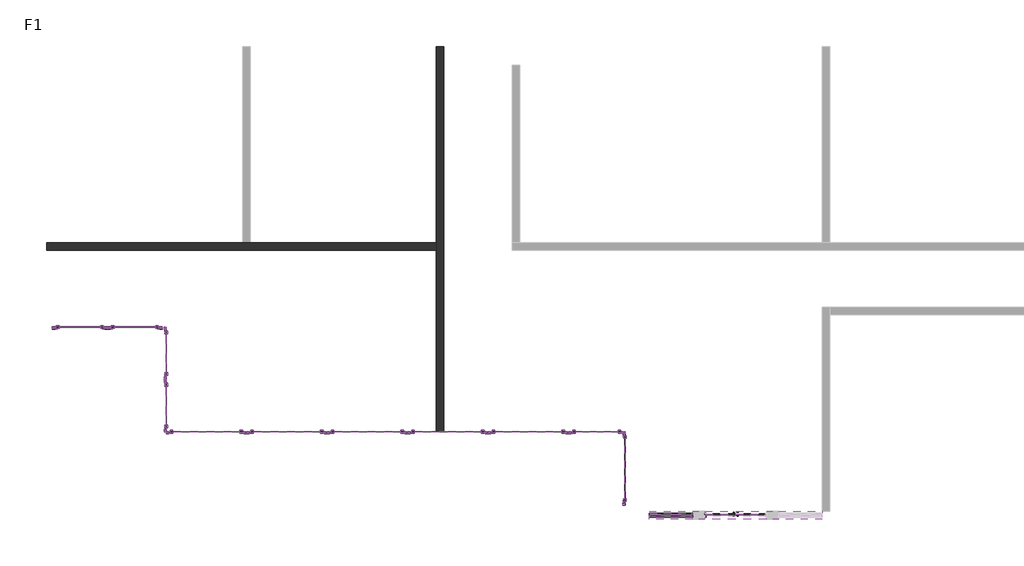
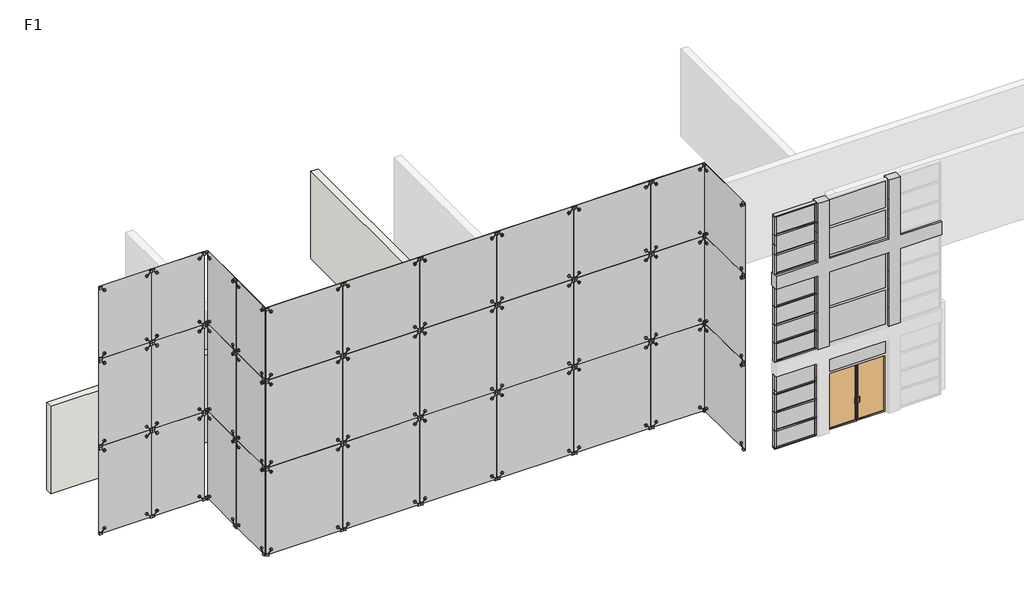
# One storey, part 1 of 2: 53 members, 50 plates, 2 walls, 1 door.
"""IFC4 building model written with IfcOpenShell, lengths in millimetres."""

from ifc_helpers import new_model, si_unit, frame, origin, place, context, project, spatial, polyline, outline, extrude, faceted_brep, transform, mapped, element, save
from components import door_a4a17696, member_50x150mm_c6049076, member_50x150mm_55273b40, member_50x150mm_84253eda, member_50x150mm_532eda0d, member_50x150mm_457f9466, member_50x150mm_6270d9f9, member_50x150mm_9e0f1e24, member_50x150mm_0d3281e4, member_50x150mm_e11a3e7b, member_50x150mm_205d2b36, member_50x150mm_4883e7f1, member_50x150mm_5dc04e1f, member_50x150mm_b8963a12, member_50x150mm_491df31a, member_50x150mm_89bf1671, member_50x150mm_7171523c, member_50x150mm_e5f2d676, member_50x150mm_b8dbbb25, plate_2de22443, plate_c6d4b723, plate_8cc356e0, plate_ce9352c0, plate_63dfc3b5, plate_96117844, plate_a1f4ba17, plate_625a1d1a, plate_6a3ab0c2, plate_77a94082, plate_71bd4e08, plate_7cde3f8c, plate_973c4cc4, plate_be698191, plate_8eec5e89, plate_8c709d47, plate_6d8c1f3b, plate_31661a44, plate_4372ea3f, plate_f9a451e8, plate_4a5322c5, plate_2b92fd1c

model = new_model("IFC4")

# Units and contexts
model_context = context("Model", 3, world=origin())
ifc_project = project(units=[si_unit("LENGTHUNIT", "METRE", prefix="MILLI")], contexts=[model_context])

# Site, building, storey
site = spatial("IfcSite", under=ifc_project)
building = spatial("IfcBuilding", under=site)
storey = spatial("IfcBuildingStorey", under=building, Name="F1", Elevation=0.0)

# Door
placement = place(None, origin())
door_shape = door_a4a17696(model_context)
element("IfcDoor", 1, ObjectType="M_帷幕牆-店面-雙 : 店面雙門", at=placement, inside=storey, context=model_context, shape_type="MappedRepresentation", body=[
    mapped(door_shape, transform((-12751.7970835, -28279.0484842, 0.0), x_axis=(1.0, 0.0, 0.0), y_axis=(0.0, 1.0, 0.0), z_axis=(0.0, 0.0, 1.0))),
])

# Members
member_50x150mm_shape = member_50x150mm_c6049076(model_context)
element("IfcMember", 2, ObjectType="矩形竖梃 : 50X150mm", at=placement, inside=storey, context=model_context, shape_type="MappedRepresentation", body=[
    mapped(member_50x150mm_shape, transform((-14356.7970835, -28279.0484842, 2250.0), x_axis=(0.0, 0.0, 1.0), y_axis=(0.0, -1.0, 0.0), z_axis=(1.0, 0.0, 0.0))),
])
element("IfcMember", 3, ObjectType="矩形竖梃 : 50X150mm", at=placement, inside=storey, context=model_context, shape_type="MappedRepresentation", body=[
    mapped(member_50x150mm_shape, transform((-14356.7970835, -28279.0484842, 4350.0), x_axis=(0.0, 0.0, 1.0), y_axis=(0.0, -1.0, 0.0), z_axis=(1.0, 0.0, 0.0))),
])
element("IfcMember", 4, ObjectType="矩形竖梃 : 50X150mm", at=placement, inside=storey, context=model_context, shape_type="MappedRepresentation", body=[
    mapped(member_50x150mm_shape, transform((-14356.7970835, -28279.0484842, 5100.0), x_axis=(0.0, 0.0, 1.0), y_axis=(0.0, -1.0, 0.0), z_axis=(1.0, 0.0, 0.0))),
])
element("IfcMember", 5, ObjectType="矩形竖梃 : 50X150mm", at=placement, inside=storey, context=model_context, shape_type="MappedRepresentation", body=[
    mapped(member_50x150mm_shape, transform((-14356.7970835, -28279.0484842, 5850.0), x_axis=(0.0, 0.0, 1.0), y_axis=(0.0, -1.0, 0.0), z_axis=(1.0, 0.0, 0.0))),
])
element("IfcMember", 6, ObjectType="矩形竖梃 : 50X150mm", at=placement, inside=storey, context=model_context, shape_type="MappedRepresentation", body=[
    mapped(member_50x150mm_shape, transform((-14356.7970835, -28279.0484842, 8000.0), x_axis=(0.0, 0.0, 1.0), y_axis=(0.0, -1.0, 0.0), z_axis=(1.0, 0.0, 0.0))),
])
element("IfcMember", 7, ObjectType="矩形竖梃 : 50X150mm", at=placement, inside=storey, context=model_context, shape_type="MappedRepresentation", body=[
    mapped(member_50x150mm_shape, transform((-14356.7970835, -28279.0484842, 750.0), x_axis=(0.0, 0.0, 1.0), y_axis=(0.0, -1.0, 0.0), z_axis=(1.0, 0.0, 0.0))),
])
element("IfcMember", 8, ObjectType="矩形竖梃 : 50X150mm", at=placement, inside=storey, context=model_context, shape_type="MappedRepresentation", body=[
    mapped(member_50x150mm_shape, transform((-14356.7970835, -28279.0484842, 1500.0), x_axis=(0.0, 0.0, 1.0), y_axis=(0.0, -1.0, 0.0), z_axis=(1.0, 0.0, 0.0))),
])
element("IfcMember", 9, ObjectType="矩形竖梃 : 50X150mm", at=placement, inside=storey, context=model_context, shape_type="MappedRepresentation", body=[
    mapped(member_50x150mm_shape, transform((-14356.7970835, -28279.0484842, 8800.0), x_axis=(0.0, 0.0, 1.0), y_axis=(0.0, -1.0, 0.0), z_axis=(1.0, 0.0, 0.0))),
])
element("IfcMember", 10, ObjectType="矩形竖梃 : 50X150mm", at=placement, inside=storey, context=model_context, shape_type="MappedRepresentation", body=[
    mapped(member_50x150mm_shape, transform((-14356.7970835, -28279.0484842, 3000.0), x_axis=(0.0, 0.0, 1.0), y_axis=(0.0, -1.0, 0.0), z_axis=(1.0, 0.0, 0.0))),
])
element("IfcMember", 11, ObjectType="矩形竖梃 : 50X150mm", at=placement, inside=storey, context=model_context, shape_type="MappedRepresentation", body=[
    mapped(member_50x150mm_shape, transform((-14356.7970835, -28279.0484842, 6600.0), x_axis=(0.0, 0.0, 1.0), y_axis=(0.0, -1.0, 0.0), z_axis=(1.0, 0.0, 0.0))),
])
element("IfcMember", 12, ObjectType="矩形竖梃 : 50X150mm", at=placement, inside=storey, context=model_context, shape_type="MappedRepresentation", body=[
    mapped(member_50x150mm_shape, transform((-14356.7970835, -28279.0484842, 7200.0), x_axis=(0.0, 0.0, 1.0), y_axis=(0.0, -1.0, 0.0), z_axis=(1.0, 0.0, 0.0))),
])
element("IfcMember", 13, ObjectType="矩形竖梃 : 50X150mm", at=placement, inside=storey, context=model_context, shape_type="MappedRepresentation", body=[
    mapped(member_50x150mm_shape, transform((-14356.7970835, -28279.0484842, 3600.0), x_axis=(0.0, 0.0, 1.0), y_axis=(0.0, -1.0, 0.0), z_axis=(1.0, 0.0, 0.0))),
])
member_50x150mm_2_shape = member_50x150mm_55273b40(model_context)
element("IfcMember", 14, ObjectType="矩形竖梃 : 50X150mm", at=placement, inside=storey, context=model_context, shape_type="MappedRepresentation", body=[
    mapped(member_50x150mm_2_shape, transform((-14381.7970835, -28279.0484842, 8400.0), x_axis=(1.0, 0.0, 0.0), y_axis=(0.0, -1.0, 0.0), z_axis=(0.0, 0.0, -1.0))),
])
element("IfcMember", 15, ObjectType="矩形竖梃 : 50X150mm", at=placement, inside=storey, context=model_context, shape_type="MappedRepresentation", body=[
    mapped(member_50x150mm_2_shape, transform((-13881.7970835, -28279.0484842, 8000.0), x_axis=(1.0, 0.0, 0.0), y_axis=(0.0, -1.0, 0.0), z_axis=(0.0, 0.0, -1.0))),
])
member_50x150mm_3_shape = member_50x150mm_84253eda(model_context)
element("IfcMember", 16, ObjectType="矩形竖梃 : 50X150mm", at=placement, inside=storey, context=model_context, shape_type="MappedRepresentation", body=[
    mapped(member_50x150mm_3_shape, transform((-14381.7970835, -28279.0484842, 775.0), x_axis=(1.0, 0.0, 0.0), y_axis=(0.0, -1.0, 0.0), z_axis=(0.0, 0.0, -1.0))),
])
element("IfcMember", 17, ObjectType="矩形竖梃 : 50X150mm", at=placement, inside=storey, context=model_context, shape_type="MappedRepresentation", body=[
    mapped(member_50x150mm_3_shape, transform((-14381.7970835, -28279.0484842, 1525.0), x_axis=(1.0, 0.0, 0.0), y_axis=(0.0, -1.0, 0.0), z_axis=(0.0, 0.0, -1.0))),
])
element("IfcMember", 18, ObjectType="矩形竖梃 : 50X150mm", at=placement, inside=storey, context=model_context, shape_type="MappedRepresentation", body=[
    mapped(member_50x150mm_3_shape, transform((-14381.7970835, -28279.0484842, 4375.0), x_axis=(1.0, 0.0, 0.0), y_axis=(0.0, -1.0, 0.0), z_axis=(0.0, 0.0, -1.0))),
])
element("IfcMember", 19, ObjectType="矩形竖梃 : 50X150mm", at=placement, inside=storey, context=model_context, shape_type="MappedRepresentation", body=[
    mapped(member_50x150mm_3_shape, transform((-14381.7970835, -28279.0484842, 5125.0), x_axis=(1.0, 0.0, 0.0), y_axis=(0.0, -1.0, 0.0), z_axis=(0.0, 0.0, -1.0))),
])
element("IfcMember", 20, ObjectType="矩形竖梃 : 50X150mm", at=placement, inside=storey, context=model_context, shape_type="MappedRepresentation", body=[
    mapped(member_50x150mm_3_shape, transform((-14381.7970835, -28279.0484842, 5875.0), x_axis=(1.0, 0.0, 0.0), y_axis=(0.0, -1.0, 0.0), z_axis=(0.0, 0.0, -1.0))),
])
element("IfcMember", 21, ObjectType="矩形竖梃 : 50X150mm", at=placement, inside=storey, context=model_context, shape_type="MappedRepresentation", body=[
    mapped(member_50x150mm_3_shape, transform((-14381.7970835, -28279.0484842, 3625.0), x_axis=(1.0, 0.0, 0.0), y_axis=(0.0, -1.0, 0.0), z_axis=(0.0, 0.0, -1.0))),
])
element("IfcMember", 22, ObjectType="矩形竖梃 : 50X150mm", at=placement, inside=storey, context=model_context, shape_type="MappedRepresentation", body=[
    mapped(member_50x150mm_2_shape, transform((-14381.7970835, -28279.0484842, 8025.0), x_axis=(1.0, 0.0, 0.0), y_axis=(0.0, -1.0, 0.0), z_axis=(0.0, 0.0, -1.0))),
])
element("IfcMember", 23, ObjectType="矩形竖梃 : 50X150mm", at=placement, inside=storey, context=model_context, shape_type="MappedRepresentation", body=[
    mapped(member_50x150mm_2_shape, transform((-13881.7970835, -28279.0484842, 8425.0), x_axis=(1.0, 0.0, 0.0), y_axis=(0.0, -1.0, 0.0), z_axis=(0.0, 0.0, -1.0))),
])
member_50x150mm_4_shape = member_50x150mm_532eda0d(model_context)
element("IfcMember", 24, ObjectType="矩形竖梃 : 50X150mm", at=placement, inside=storey, context=model_context, shape_type="MappedRepresentation", body=[
    mapped(member_50x150mm_4_shape, transform((-14381.7970835, -28279.0484842, 8825.0), x_axis=(1.0, 0.0, 0.0), y_axis=(0.0, -1.0, 0.0), z_axis=(0.0, 0.0, -1.0))),
])
member_50x150mm_5_shape = member_50x150mm_457f9466(model_context)
element("IfcMember", 25, ObjectType="矩形竖梃 : 50X150mm", at=placement, inside=storey, context=model_context, shape_type="MappedRepresentation", body=[
    mapped(member_50x150mm_5_shape, transform((-14381.7970835, -28279.0484842, 7225.0), x_axis=(1.0, 0.0, 0.0), y_axis=(0.0, -1.0, 0.0), z_axis=(0.0, 0.0, -1.0))),
])
element("IfcMember", 26, ObjectType="矩形竖梃 : 50X150mm", at=placement, inside=storey, context=model_context, shape_type="MappedRepresentation", body=[
    mapped(member_50x150mm_5_shape, transform((-13881.7970835, -28279.0484842, 750.0), x_axis=(1.0, 0.0, 0.0), y_axis=(0.0, -1.0, 0.0), z_axis=(0.0, 0.0, -1.0))),
])
element("IfcMember", 27, ObjectType="矩形竖梃 : 50X150mm", at=placement, inside=storey, context=model_context, shape_type="MappedRepresentation", body=[
    mapped(member_50x150mm_5_shape, transform((-13881.7970835, -28279.0484842, 1500.0), x_axis=(1.0, 0.0, 0.0), y_axis=(0.0, -1.0, 0.0), z_axis=(0.0, 0.0, -1.0))),
])
element("IfcMember", 28, ObjectType="矩形竖梃 : 50X150mm", at=placement, inside=storey, context=model_context, shape_type="MappedRepresentation", body=[
    mapped(member_50x150mm_4_shape, transform((-13881.7970835, -28279.0484842, 4350.0), x_axis=(1.0, 0.0, 0.0), y_axis=(0.0, -1.0, 0.0), z_axis=(0.0, 0.0, -1.0))),
])
element("IfcMember", 29, ObjectType="矩形竖梃 : 50X150mm", at=placement, inside=storey, context=model_context, shape_type="MappedRepresentation", body=[
    mapped(member_50x150mm_4_shape, transform((-13881.7970835, -28279.0484842, 5850.0), x_axis=(1.0, 0.0, 0.0), y_axis=(0.0, -1.0, 0.0), z_axis=(0.0, 0.0, -1.0))),
])
element("IfcMember", 30, ObjectType="矩形竖梃 : 50X150mm", at=placement, inside=storey, context=model_context, shape_type="MappedRepresentation", body=[
    mapped(member_50x150mm_4_shape, transform((-13881.7970835, -28279.0484842, 5125.0), x_axis=(1.0, 0.0, 0.0), y_axis=(0.0, -1.0, 0.0), z_axis=(0.0, 0.0, -1.0))),
])
element("IfcMember", 31, ObjectType="矩形竖梃 : 50X150mm", at=placement, inside=storey, context=model_context, shape_type="MappedRepresentation", body=[
    mapped(member_50x150mm_4_shape, transform((-13881.7970835, -28279.0484842, 3625.0), x_axis=(1.0, 0.0, 0.0), y_axis=(0.0, -1.0, 0.0), z_axis=(0.0, 0.0, -1.0))),
])
element("IfcMember", 32, ObjectType="矩形竖梃 : 50X150mm", at=placement, inside=storey, context=model_context, shape_type="MappedRepresentation", body=[
    mapped(member_50x150mm_5_shape, transform((-13881.7970835, -28279.0484842, 8800.0), x_axis=(1.0, 0.0, 0.0), y_axis=(0.0, -1.0, 0.0), z_axis=(0.0, 0.0, -1.0))),
])
member_50x150mm_6_shape = member_50x150mm_6270d9f9(model_context)
element("IfcMember", 33, ObjectType="矩形竖梃 : 50X150mm", at=placement, inside=storey, context=model_context, shape_type="MappedRepresentation", body=[
    mapped(member_50x150mm_6_shape, transform((-13881.7970835, -28279.0484842, 7225.0), x_axis=(1.0, 0.0, 0.0), y_axis=(0.0, -1.0, 0.0), z_axis=(0.0, 0.0, -1.0))),
])
member_50x150mm_7_shape = member_50x150mm_9e0f1e24(model_context)
element("IfcMember", 34, ObjectType="矩形竖梃 : 50X150mm", at=placement, inside=storey, context=model_context, shape_type="MappedRepresentation", body=[
    mapped(member_50x150mm_7_shape, transform((-14381.7970835, -28279.0484842, 50.0), x_axis=(1.0, 0.0, 0.0), y_axis=(0.0, -1.0, 0.0), z_axis=(0.0, 0.0, -1.0))),
])
member_50x150mm_8_shape = member_50x150mm_0d3281e4(model_context)
element("IfcMember", 35, ObjectType="矩形竖梃 : 50X150mm", at=placement, inside=storey, context=model_context, shape_type="MappedRepresentation", body=[
    mapped(member_50x150mm_8_shape, transform((-15981.7970835, -28279.0484842, 9550.0), x_axis=(-1.0, 0.0, 0.0), y_axis=(0.0, -1.0, 0.0), z_axis=(0.0, 0.0, 1.0))),
])
member_50x150mm_9_shape = member_50x150mm_e11a3e7b(model_context)
element("IfcMember", 36, ObjectType="矩形竖梃 : 50X150mm", at=placement, inside=storey, context=model_context, shape_type="MappedRepresentation", body=[
    mapped(member_50x150mm_9_shape, transform((-15981.7970835, -28279.0484842, 8400.0), x_axis=(-1.0, 0.0, 0.0), y_axis=(0.0, -1.0, 0.0), z_axis=(0.0, 0.0, 1.0))),
])
member_50x150mm_10_shape = member_50x150mm_205d2b36(model_context)
element("IfcMember", 37, ObjectType="矩形竖梃 : 50X150mm", at=placement, inside=storey, context=model_context, shape_type="MappedRepresentation", body=[
    mapped(member_50x150mm_10_shape, transform((-15981.7970835, -28279.0484842, 750.0), x_axis=(-1.0, 0.0, 0.0), y_axis=(0.0, -1.0, 0.0), z_axis=(0.0, 0.0, 1.0))),
])
element("IfcMember", 38, ObjectType="矩形竖梃 : 50X150mm", at=placement, inside=storey, context=model_context, shape_type="MappedRepresentation", body=[
    mapped(member_50x150mm_8_shape, transform((-15981.7970835, -28279.0484842, 1500.0), x_axis=(-1.0, 0.0, 0.0), y_axis=(0.0, -1.0, 0.0), z_axis=(0.0, 0.0, 1.0))),
])
element("IfcMember", 39, ObjectType="矩形竖梃 : 50X150mm", at=placement, inside=storey, context=model_context, shape_type="MappedRepresentation", body=[
    mapped(member_50x150mm_8_shape, transform((-15981.7970835, -28279.0484842, 2250.0), x_axis=(-1.0, 0.0, 0.0), y_axis=(0.0, -1.0, 0.0), z_axis=(0.0, 0.0, 1.0))),
])
element("IfcMember", 40, ObjectType="矩形竖梃 : 50X150mm", at=placement, inside=storey, context=model_context, shape_type="MappedRepresentation", body=[
    mapped(member_50x150mm_8_shape, transform((-15981.7970835, -28279.0484842, 5100.0), x_axis=(-1.0, 0.0, 0.0), y_axis=(0.0, -1.0, 0.0), z_axis=(0.0, 0.0, 1.0))),
])
element("IfcMember", 41, ObjectType="矩形竖梃 : 50X150mm", at=placement, inside=storey, context=model_context, shape_type="MappedRepresentation", body=[
    mapped(member_50x150mm_8_shape, transform((-15981.7970835, -28279.0484842, 5850.0), x_axis=(-1.0, 0.0, 0.0), y_axis=(0.0, -1.0, 0.0), z_axis=(0.0, 0.0, 1.0))),
])
element("IfcMember", 42, ObjectType="矩形竖梃 : 50X150mm", at=placement, inside=storey, context=model_context, shape_type="MappedRepresentation", body=[
    mapped(member_50x150mm_9_shape, transform((-15981.7970835, -28279.0484842, 8800.0), x_axis=(-1.0, 0.0, 0.0), y_axis=(0.0, -1.0, 0.0), z_axis=(0.0, 0.0, 1.0))),
])
member_50x150mm_11_shape = member_50x150mm_4883e7f1(model_context)
element("IfcMember", 43, ObjectType="矩形竖梃 : 50X150mm", at=placement, inside=storey, context=model_context, shape_type="MappedRepresentation", body=[
    mapped(member_50x150mm_11_shape, transform((-15981.7970835, -28279.0484842, 8000.0), x_axis=(-1.0, 0.0, 0.0), y_axis=(0.0, -1.0, 0.0), z_axis=(0.0, 0.0, 1.0))),
])
member_50x150mm_12_shape = member_50x150mm_5dc04e1f(model_context)
element("IfcMember", 44, ObjectType="矩形竖梃 : 50X150mm", at=placement, inside=storey, context=model_context, shape_type="MappedRepresentation", body=[
    mapped(member_50x150mm_12_shape, transform((-15981.7970835, -28279.0484842, 6625.0), x_axis=(-1.0, 0.0, 0.0), y_axis=(0.0, -1.0, 0.0), z_axis=(0.0, 0.0, 1.0))),
])
member_50x150mm_13_shape = member_50x150mm_b8963a12(model_context)
element("IfcMember", 45, ObjectType="矩形竖梃 : 50X150mm", at=placement, inside=storey, context=model_context, shape_type="MappedRepresentation", body=[
    mapped(member_50x150mm_13_shape, transform((-14356.7970835, -28279.0484842, 9600.0), x_axis=(0.0, 0.0, 1.0), y_axis=(0.0, -1.0, 0.0), z_axis=(1.0, 0.0, 0.0))),
])
element("IfcMember", 46, ObjectType="矩形竖梃 : 50X150mm", at=placement, inside=storey, context=model_context, shape_type="MappedRepresentation", body=[
    mapped(member_50x150mm_12_shape, transform((-15981.7970835, -28279.0484842, 4350.0), x_axis=(-1.0, 0.0, 0.0), y_axis=(0.0, -1.0, 0.0), z_axis=(0.0, 0.0, 1.0))),
])
element("IfcMember", 47, ObjectType="矩形竖梃 : 50X150mm", at=placement, inside=storey, context=model_context, shape_type="MappedRepresentation", body=[
    mapped(member_50x150mm_13_shape, transform((-15981.7970835, -28279.0484842, 0.0), x_axis=(0.0, 0.0, -1.0), y_axis=(0.0, -1.0, 0.0), z_axis=(-1.0, 0.0, 0.0))),
])
member_50x150mm_14_shape = member_50x150mm_491df31a(model_context)
element("IfcMember", 48, ObjectType="矩形竖梃 : 50X150mm", at=placement, inside=storey, context=model_context, shape_type="MappedRepresentation", body=[
    mapped(member_50x150mm_14_shape, transform((-14381.7970835, -28279.0484842, 2275.0), x_axis=(1.0, 0.0, 0.0), y_axis=(0.0, -1.0, 0.0), z_axis=(0.0, 0.0, -1.0))),
])
member_50x150mm_15_shape = member_50x150mm_89bf1671(model_context)
element("IfcMember", 49, ObjectType="矩形竖梃 : 50X150mm", at=placement, inside=storey, context=model_context, shape_type="MappedRepresentation", body=[
    mapped(member_50x150mm_15_shape, transform((-14381.7970835, -28279.0484842, 2400.0), x_axis=(1.0, 0.0, 0.0), y_axis=(0.0, -1.0, 0.0), z_axis=(0.0, 0.0, -1.0))),
])
member_50x150mm_16_shape = member_50x150mm_7171523c(model_context)
element("IfcMember", 50, ObjectType="矩形竖梃 : 50X150mm", at=placement, inside=storey, context=model_context, shape_type="MappedRepresentation", body=[
    mapped(member_50x150mm_16_shape, transform((-15981.7970835, -28279.0484842, 3025.0), x_axis=(-1.0, 0.0, 0.0), y_axis=(0.0, -1.0, 0.0), z_axis=(0.0, 0.0, 1.0))),
])
member_50x150mm_17_shape = member_50x150mm_e5f2d676(model_context)
element("IfcMember", 51, ObjectType="矩形竖梃 : 50X150mm", at=placement, inside=storey, context=model_context, shape_type="MappedRepresentation", body=[
    mapped(member_50x150mm_17_shape, transform((-15981.7970835, -28279.0484842, 2400.0), x_axis=(-1.0, 0.0, 0.0), y_axis=(0.0, -1.0, 0.0), z_axis=(0.0, 0.0, 1.0))),
])
element("IfcMember", 52, ObjectType="矩形竖梃 : 50X150mm", at=placement, inside=storey, context=model_context, shape_type="MappedRepresentation", body=[
    mapped(member_50x150mm_14_shape, transform((-13881.7970835, -28279.0484842, 2250.0), x_axis=(1.0, 0.0, 0.0), y_axis=(0.0, -1.0, 0.0), z_axis=(0.0, 0.0, -1.0))),
])
member_50x150mm_18_shape = member_50x150mm_b8dbbb25(model_context)
element("IfcMember", 53, ObjectType="矩形竖梃 : 50X150mm", at=placement, inside=storey, context=model_context, shape_type="MappedRepresentation", body=[
    mapped(member_50x150mm_18_shape, transform((-13881.7970835, -28279.0484842, 2425.0), x_axis=(1.0, 0.0, 0.0), y_axis=(0.0, -1.0, 0.0), z_axis=(0.0, 0.0, -1.0))),
])
element("IfcMember", 54, ObjectType="矩形竖梃 : 50X150mm", at=placement, inside=storey, context=model_context, shape_type="MappedRepresentation", body=[
    mapped(member_50x150mm_5_shape, transform((-13881.7970835, -28279.0484842, 0.0), x_axis=(1.0, 0.0, 0.0), y_axis=(0.0, -1.0, 0.0), z_axis=(0.0, 0.0, -1.0))),
])

# Plates
element("IfcPlate", 55, ObjectType="F2-F5-24CM-外牆", at=placement, inside=storey, context=model_context, shape_type="SweptSolid", body=[
    extrude(outline(polyline([(3575.0, -11596.7970835), (3575.0, -11146.7970835), (4350.0, -11146.7970835), (5100.0, -11146.7970835), (5850.0, -11146.7970835), (6625.0, -11146.7970835), (6625.0, -9521.7970835), (7175.0, -9521.7970835), (7175.0, -11146.7970835), (8000.0, -11146.7970835), (8400.0, -11146.7970835), (8800.0, -11146.7970835), (9600.0, -11146.7970835), (9600.0, -11596.7970835), (8800.0, -11596.7970835), (8400.0, -11596.7970835), (8000.0, -11596.7970835), (7175.0, -11596.7970835), (7175.0, -13906.7970835), (8000.0, -13906.7970835), (8400.0, -13906.7970835), (8800.0, -13906.7970835), (9600.0, -13906.7970835), (9600.0, -14356.7970835), (8800.0, -14356.7970835), (8400.0, -14356.7970835), (8000.0, -14356.7970835), (7175.0, -14356.7970835), (7175.0, -15981.7970835), (6625.0, -15981.7970835), (6625.0, -14356.7970835), (5850.0, -14356.7970835), (5100.0, -14356.7970835), (4350.0, -14356.7970835), (3575.0, -14356.7970835), (3575.0, -13906.7970835), (4350.0, -13906.7970835), (5100.0, -13906.7970835), (5850.0, -13906.7970835), (6625.0, -13906.7970835), (6625.0, -11596.7970835), (5850.0, -11596.7970835), (5100.0, -11596.7970835), (4350.0, -11596.7970835), (3575.0, -11596.7970835)])), frame((0.0, -28429.0484842, 0.0), z_axis=(0.0, 1.0, 0.0), x_axis=(0.0, 0.0, 1.0)), (0.0, 0.0, 1.0), 300.0),
])
plate_shape = plate_2de22443(model_context)
element("IfcPlate", 56, ObjectType="点爪式幕墙嵌板 : 点爪式幕墙嵌板", at=placement, inside=storey, context=model_context, shape_type="MappedRepresentation", body=[
    mapped(plate_shape, transform((-33981.7970835, -22244.0484842, 0.0), x_axis=(0.0, -1.0, 0.0), y_axis=(1.0, 0.0, 0.0), z_axis=(0.0, 0.0, 1.0))),
])
element("IfcPlate", 57, ObjectType="点爪式幕墙嵌板 : 点爪式幕墙嵌板", at=placement, inside=storey, context=model_context, shape_type="MappedRepresentation", body=[
    mapped(plate_shape, transform((-33981.7970835, -24194.0484842, 0.0), x_axis=(0.0, -1.0, 0.0), y_axis=(1.0, 0.0, 0.0), z_axis=(0.0, 0.0, 1.0))),
])
element("IfcPlate", 58, ObjectType="点爪式幕墙嵌板 : 点爪式幕墙嵌板", at=placement, inside=storey, context=model_context, shape_type="MappedRepresentation", body=[
    mapped(plate_shape, transform((-33981.7970835, -22244.0484842, 3600.0), x_axis=(0.0, -1.0, 0.0), y_axis=(1.0, 0.0, 0.0), z_axis=(0.0, 0.0, 1.0))),
])
element("IfcPlate", 59, ObjectType="点爪式幕墙嵌板 : 点爪式幕墙嵌板", at=placement, inside=storey, context=model_context, shape_type="MappedRepresentation", body=[
    mapped(plate_shape, transform((-33981.7970835, -24194.0484842, 3600.0), x_axis=(0.0, -1.0, 0.0), y_axis=(1.0, 0.0, 0.0), z_axis=(0.0, 0.0, 1.0))),
])
plate_2_shape = plate_c6d4b723(model_context)
element("IfcPlate", 60, ObjectType="点爪式幕墙嵌板 : 点爪式幕墙嵌板", at=placement, inside=storey, context=model_context, shape_type="MappedRepresentation", body=[
    mapped(plate_2_shape, transform((-32481.7970835, -25169.0484842, 0.0), x_axis=(1.0, 0.0, 0.0), y_axis=(0.0, 1.0, 0.0), z_axis=(0.0, 0.0, 1.0))),
])
element("IfcPlate", 61, ObjectType="点爪式幕墙嵌板 : 点爪式幕墙嵌板", at=placement, inside=storey, context=model_context, shape_type="MappedRepresentation", body=[
    mapped(plate_2_shape, transform((-29481.7970835, -25169.0484842, 0.0), x_axis=(1.0, 0.0, 0.0), y_axis=(0.0, 1.0, 0.0), z_axis=(0.0, 0.0, 1.0))),
])
element("IfcPlate", 62, ObjectType="点爪式幕墙嵌板 : 点爪式幕墙嵌板", at=placement, inside=storey, context=model_context, shape_type="MappedRepresentation", body=[
    mapped(plate_2_shape, transform((-26481.7970835, -25169.0484842, 0.0), x_axis=(1.0, 0.0, 0.0), y_axis=(0.0, 1.0, 0.0), z_axis=(0.0, 0.0, 1.0))),
])
element("IfcPlate", 63, ObjectType="点爪式幕墙嵌板 : 点爪式幕墙嵌板", at=placement, inside=storey, context=model_context, shape_type="MappedRepresentation", body=[
    mapped(plate_2_shape, transform((-23481.7970835, -25169.0484842, 0.0), x_axis=(1.0, 0.0, 0.0), y_axis=(0.0, 1.0, 0.0), z_axis=(0.0, 0.0, 1.0))),
])
element("IfcPlate", 64, ObjectType="点爪式幕墙嵌板 : 点爪式幕墙嵌板", at=placement, inside=storey, context=model_context, shape_type="MappedRepresentation", body=[
    mapped(plate_2_shape, transform((-20481.7970835, -25169.0484842, 0.0), x_axis=(1.0, 0.0, 0.0), y_axis=(0.0, 1.0, 0.0), z_axis=(0.0, 0.0, 1.0))),
])
element("IfcPlate", 65, ObjectType="点爪式幕墙嵌板 : 点爪式幕墙嵌板", at=placement, inside=storey, context=model_context, shape_type="MappedRepresentation", body=[
    mapped(plate_2_shape, transform((-32481.7970835, -25169.0484842, 3600.0), x_axis=(1.0, 0.0, 0.0), y_axis=(0.0, 1.0, 0.0), z_axis=(0.0, 0.0, 1.0))),
])
element("IfcPlate", 66, ObjectType="点爪式幕墙嵌板 : 点爪式幕墙嵌板", at=placement, inside=storey, context=model_context, shape_type="MappedRepresentation", body=[
    mapped(plate_2_shape, transform((-29481.7970835, -25169.0484842, 3600.0), x_axis=(1.0, 0.0, 0.0), y_axis=(0.0, 1.0, 0.0), z_axis=(0.0, 0.0, 1.0))),
])
element("IfcPlate", 67, ObjectType="点爪式幕墙嵌板 : 点爪式幕墙嵌板", at=placement, inside=storey, context=model_context, shape_type="MappedRepresentation", body=[
    mapped(plate_2_shape, transform((-26481.7970835, -25169.0484842, 3600.0), x_axis=(1.0, 0.0, 0.0), y_axis=(0.0, 1.0, 0.0), z_axis=(0.0, 0.0, 1.0))),
])
element("IfcPlate", 68, ObjectType="点爪式幕墙嵌板 : 点爪式幕墙嵌板", at=placement, inside=storey, context=model_context, shape_type="MappedRepresentation", body=[
    mapped(plate_2_shape, transform((-23481.7970835, -25169.0484842, 3600.0), x_axis=(1.0, 0.0, 0.0), y_axis=(0.0, 1.0, 0.0), z_axis=(0.0, 0.0, 1.0))),
])
element("IfcPlate", 69, ObjectType="点爪式幕墙嵌板 : 点爪式幕墙嵌板", at=placement, inside=storey, context=model_context, shape_type="MappedRepresentation", body=[
    mapped(plate_2_shape, transform((-20481.7970835, -25169.0484842, 3600.0), x_axis=(1.0, 0.0, 0.0), y_axis=(0.0, 1.0, 0.0), z_axis=(0.0, 0.0, 1.0))),
])
plate_3_shape = plate_8cc356e0(model_context)
element("IfcPlate", 70, ObjectType="点爪式幕墙嵌板 : 点爪式幕墙嵌板", at=placement, inside=storey, context=model_context, shape_type="MappedRepresentation", body=[
    mapped(plate_3_shape, transform((-33981.7970835, -22244.0484842, 7200.0), x_axis=(0.0, -1.0, 0.0), y_axis=(1.0, 0.0, 0.0), z_axis=(0.0, 0.0, 1.0))),
])
element("IfcPlate", 71, ObjectType="点爪式幕墙嵌板 : 点爪式幕墙嵌板", at=placement, inside=storey, context=model_context, shape_type="MappedRepresentation", body=[
    mapped(plate_3_shape, transform((-33981.7970835, -24194.0484842, 7200.0), x_axis=(0.0, -1.0, 0.0), y_axis=(1.0, 0.0, 0.0), z_axis=(0.0, 0.0, 1.0))),
])
plate_4_shape = plate_ce9352c0(model_context)
element("IfcPlate", 72, ObjectType="点爪式幕墙嵌板 : 点爪式幕墙嵌板", at=placement, inside=storey, context=model_context, shape_type="MappedRepresentation", body=[
    mapped(plate_4_shape, transform((-17931.7970835, -25169.0484842, 0.0), x_axis=(1.0, 0.0, 0.0), y_axis=(0.0, 1.0, 0.0), z_axis=(0.0, 0.0, 1.0))),
])
element("IfcPlate", 73, ObjectType="点爪式幕墙嵌板 : 点爪式幕墙嵌板", at=placement, inside=storey, context=model_context, shape_type="MappedRepresentation", body=[
    mapped(plate_4_shape, transform((-17931.7970835, -25169.0484842, 3600.0), x_axis=(1.0, 0.0, 0.0), y_axis=(0.0, 1.0, 0.0), z_axis=(0.0, 0.0, 1.0))),
])
plate_5_shape = plate_63dfc3b5(model_context)
element("IfcPlate", 74, ObjectType="点爪式幕墙嵌板 : 点爪式幕墙嵌板", at=placement, inside=storey, context=model_context, shape_type="MappedRepresentation", body=[
    mapped(plate_5_shape, transform((-32481.7970835, -25169.0484842, 7200.0), x_axis=(1.0, 0.0, 0.0), y_axis=(0.0, 1.0, 0.0), z_axis=(0.0, 0.0, 1.0))),
])
element("IfcPlate", 75, ObjectType="点爪式幕墙嵌板 : 点爪式幕墙嵌板", at=placement, inside=storey, context=model_context, shape_type="MappedRepresentation", body=[
    mapped(plate_5_shape, transform((-29481.7970835, -25169.0484842, 7200.0), x_axis=(1.0, 0.0, 0.0), y_axis=(0.0, 1.0, 0.0), z_axis=(0.0, 0.0, 1.0))),
])
element("IfcPlate", 76, ObjectType="点爪式幕墙嵌板 : 点爪式幕墙嵌板", at=placement, inside=storey, context=model_context, shape_type="MappedRepresentation", body=[
    mapped(plate_5_shape, transform((-26481.7970835, -25169.0484842, 7200.0), x_axis=(1.0, 0.0, 0.0), y_axis=(0.0, 1.0, 0.0), z_axis=(0.0, 0.0, 1.0))),
])
element("IfcPlate", 77, ObjectType="点爪式幕墙嵌板 : 点爪式幕墙嵌板", at=placement, inside=storey, context=model_context, shape_type="MappedRepresentation", body=[
    mapped(plate_5_shape, transform((-23481.7970835, -25169.0484842, 7200.0), x_axis=(1.0, 0.0, 0.0), y_axis=(0.0, 1.0, 0.0), z_axis=(0.0, 0.0, 1.0))),
])
element("IfcPlate", 78, ObjectType="点爪式幕墙嵌板 : 点爪式幕墙嵌板", at=placement, inside=storey, context=model_context, shape_type="MappedRepresentation", body=[
    mapped(plate_5_shape, transform((-20481.7970835, -25169.0484842, 7200.0), x_axis=(1.0, 0.0, 0.0), y_axis=(0.0, 1.0, 0.0), z_axis=(0.0, 0.0, 1.0))),
])
plate_6_shape = plate_96117844(model_context)
element("IfcPlate", 79, ObjectType="点爪式幕墙嵌板 : 点爪式幕墙嵌板", at=placement, inside=storey, context=model_context, shape_type="MappedRepresentation", body=[
    mapped(plate_6_shape, transform((-17931.7970835, -25169.0484842, 7200.0), x_axis=(1.0, 0.0, 0.0), y_axis=(0.0, 1.0, 0.0), z_axis=(0.0, 0.0, 1.0))),
])
plate_7_shape = plate_a1f4ba17(model_context)
element("IfcPlate", 80, ObjectType="系统嵌板 : 玻璃", at=placement, inside=storey, context=model_context, shape_type="MappedRepresentation", body=[
    mapped(plate_7_shape, transform((-15169.2970835, -28279.0484842, 50.0), x_axis=(1.0, 0.0, 0.0), y_axis=(0.0, 1.0, 0.0), z_axis=(0.0, 0.0, 1.0))),
])
plate_8_shape = plate_625a1d1a(model_context)
element("IfcPlate", 81, ObjectType="系统嵌板 : 玻璃", at=placement, inside=storey, context=model_context, shape_type="MappedRepresentation", body=[
    mapped(plate_8_shape, transform((-15169.2970835, -28279.0484842, 3625.0), x_axis=(1.0, 0.0, 0.0), y_axis=(0.0, 1.0, 0.0), z_axis=(0.0, 0.0, 1.0))),
])
element("IfcPlate", 82, ObjectType="系统嵌板 : 玻璃", at=placement, inside=storey, context=model_context, shape_type="MappedRepresentation", body=[
    mapped(plate_8_shape, transform((-15169.2970835, -28279.0484842, 5875.0), x_axis=(1.0, 0.0, 0.0), y_axis=(0.0, 1.0, 0.0), z_axis=(0.0, 0.0, 1.0))),
])
element("IfcPlate", 83, ObjectType="系统嵌板 : 玻璃", at=placement, inside=storey, context=model_context, shape_type="MappedRepresentation", body=[
    mapped(plate_8_shape, transform((-15169.2970835, -28279.0484842, 5125.0), x_axis=(1.0, 0.0, 0.0), y_axis=(0.0, 1.0, 0.0), z_axis=(0.0, 0.0, 1.0))),
])
element("IfcPlate", 84, ObjectType="系统嵌板 : 玻璃", at=placement, inside=storey, context=model_context, shape_type="MappedRepresentation", body=[
    mapped(plate_8_shape, transform((-15169.2970835, -28279.0484842, 4375.0), x_axis=(1.0, 0.0, 0.0), y_axis=(0.0, 1.0, 0.0), z_axis=(0.0, 0.0, 1.0))),
])
element("IfcPlate", 85, ObjectType="系统嵌板 : 玻璃", at=placement, inside=storey, context=model_context, shape_type="MappedRepresentation", body=[
    mapped(plate_8_shape, transform((-15169.2970835, -28279.0484842, 1525.0), x_axis=(1.0, 0.0, 0.0), y_axis=(0.0, 1.0, 0.0), z_axis=(0.0, 0.0, 1.0))),
])
element("IfcPlate", 86, ObjectType="系统嵌板 : 玻璃", at=placement, inside=storey, context=model_context, shape_type="MappedRepresentation", body=[
    mapped(plate_8_shape, transform((-15169.2970835, -28279.0484842, 775.0), x_axis=(1.0, 0.0, 0.0), y_axis=(0.0, 1.0, 0.0), z_axis=(0.0, 0.0, 1.0))),
])
plate_9_shape = plate_6a3ab0c2(model_context)
element("IfcPlate", 87, ObjectType="系统嵌板 : 玻璃", at=placement, inside=storey, context=model_context, shape_type="MappedRepresentation", body=[
    mapped(plate_9_shape, transform((-12751.7970835, -28279.0484842, 3625.0), x_axis=(1.0, 0.0, 0.0), y_axis=(0.0, 1.0, 0.0), z_axis=(0.0, 0.0, 1.0))),
])
element("IfcPlate", 88, ObjectType="系统嵌板 : 玻璃", at=placement, inside=storey, context=model_context, shape_type="MappedRepresentation", body=[
    mapped(plate_9_shape, transform((-12751.7970835, -28279.0484842, 5125.0), x_axis=(1.0, 0.0, 0.0), y_axis=(0.0, 1.0, 0.0), z_axis=(0.0, 0.0, 1.0))),
])
plate_10_shape = plate_77a94082(model_context)
element("IfcPlate", 89, ObjectType="系统嵌板 : 玻璃", at=placement, inside=storey, context=model_context, shape_type="MappedRepresentation", body=[
    mapped(plate_10_shape, transform((-15169.2970835, -28279.0484842, 7225.0), x_axis=(1.0, 0.0, 0.0), y_axis=(0.0, 1.0, 0.0), z_axis=(0.0, 0.0, 1.0))),
])
plate_11_shape = plate_71bd4e08(model_context)
element("IfcPlate", 90, ObjectType="系统嵌板 : 玻璃", at=placement, inside=storey, context=model_context, shape_type="MappedRepresentation", body=[
    mapped(plate_11_shape, transform((-12751.7970835, -28279.0484842, 7225.0), x_axis=(1.0, 0.0, 0.0), y_axis=(0.0, 1.0, 0.0), z_axis=(0.0, 0.0, 1.0))),
])
plate_12_shape = plate_7cde3f8c(model_context)
element("IfcPlate", 91, ObjectType="系统嵌板 : 玻璃", at=placement, inside=storey, context=model_context, shape_type="MappedRepresentation", body=[
    mapped(plate_12_shape, transform((-15169.2970835, -28279.0484842, 8825.0), x_axis=(1.0, 0.0, 0.0), y_axis=(0.0, 1.0, 0.0), z_axis=(0.0, 0.0, 1.0))),
])
plate_13_shape = plate_973c4cc4(model_context)
element("IfcPlate", 92, ObjectType="系统嵌板 : 玻璃", at=placement, inside=storey, context=model_context, shape_type="MappedRepresentation", body=[
    mapped(plate_13_shape, transform((-15169.2970835, -28279.0484842, 8025.0), x_axis=(1.0, 0.0, 0.0), y_axis=(0.0, 1.0, 0.0), z_axis=(0.0, 0.0, 1.0))),
])
plate_14_shape = plate_be698191(model_context)
element("IfcPlate", 93, ObjectType="系统嵌板 : 玻璃", at=placement, inside=storey, context=model_context, shape_type="MappedRepresentation", body=[
    mapped(plate_14_shape, transform((-12751.7970835, -28279.0484842, 8425.0), x_axis=(1.0, 0.0, 0.0), y_axis=(0.0, 1.0, 0.0), z_axis=(0.0, 0.0, 1.0))),
])
plate_15_shape = plate_8eec5e89(model_context)
element("IfcPlate", 94, ObjectType="系统嵌板 : 玻璃", at=placement, inside=storey, context=model_context, shape_type="MappedRepresentation", body=[
    mapped(plate_15_shape, transform((-15169.2970835, -28279.0484842, 2275.0), x_axis=(1.0, 0.0, 0.0), y_axis=(0.0, 1.0, 0.0), z_axis=(0.0, 0.0, 1.0))),
])
plate_16_shape = plate_8c709d47(model_context)
element("IfcPlate", 95, ObjectType="系统嵌板 : 玻璃", at=placement, inside=storey, context=model_context, shape_type="MappedRepresentation", body=[
    mapped(plate_16_shape, transform((-12751.7970835, -28279.0484842, 2425.0), x_axis=(1.0, 0.0, 0.0), y_axis=(0.0, 1.0, 0.0), z_axis=(0.0, 0.0, 1.0))),
])
plate_17_shape = plate_6d8c1f3b(model_context)
element("IfcPlate", 96, ObjectType="点爪式幕墙嵌板 : 点爪式幕墙嵌板", at=placement, inside=storey, context=model_context, shape_type="MappedRepresentation", body=[
    mapped(plate_17_shape, transform((-16881.7970835, -26539.0484842, 0.0), x_axis=(0.0, -1.0, 0.0), y_axis=(1.0, 0.0, 0.0), z_axis=(0.0, 0.0, 1.0))),
])
element("IfcPlate", 97, ObjectType="点爪式幕墙嵌板 : 点爪式幕墙嵌板", at=placement, inside=storey, context=model_context, shape_type="MappedRepresentation", body=[
    mapped(plate_17_shape, transform((-16881.7970835, -26539.0484842, 3600.0), x_axis=(0.0, -1.0, 0.0), y_axis=(1.0, 0.0, 0.0), z_axis=(0.0, 0.0, 1.0))),
])
plate_18_shape = plate_31661a44(model_context)
element("IfcPlate", 98, ObjectType="点爪式幕墙嵌板 : 点爪式幕墙嵌板", at=placement, inside=storey, context=model_context, shape_type="MappedRepresentation", body=[
    mapped(plate_18_shape, transform((-16881.7970835, -26539.0484842, 7200.0), x_axis=(0.0, -1.0, 0.0), y_axis=(1.0, 0.0, 0.0), z_axis=(0.0, 0.0, 1.0))),
])
plate_19_shape = plate_4372ea3f(model_context)
element("IfcPlate", 99, ObjectType="点爪式幕墙嵌板 : 点爪式幕墙嵌板", at=placement, inside=storey, context=model_context, shape_type="MappedRepresentation", body=[
    mapped(plate_19_shape, transform((-37196.7970835, -21269.0484842, 0.0), x_axis=(1.0, 0.0, 0.0), y_axis=(0.0, 1.0, 0.0), z_axis=(0.0, 0.0, 1.0))),
])
element("IfcPlate", 100, ObjectType="点爪式幕墙嵌板 : 点爪式幕墙嵌板", at=placement, inside=storey, context=model_context, shape_type="MappedRepresentation", body=[
    mapped(plate_19_shape, transform((-37196.7970835, -21269.0484842, 3600.0), x_axis=(1.0, 0.0, 0.0), y_axis=(0.0, 1.0, 0.0), z_axis=(0.0, 0.0, 1.0))),
])
plate_20_shape = plate_f9a451e8(model_context)
element("IfcPlate", 101, ObjectType="点爪式幕墙嵌板 : 点爪式幕墙嵌板", at=placement, inside=storey, context=model_context, shape_type="MappedRepresentation", body=[
    mapped(plate_20_shape, transform((-35146.7970835, -21269.0484842, 0.0), x_axis=(1.0, 0.0, 0.0), y_axis=(0.0, 1.0, 0.0), z_axis=(0.0, 0.0, 1.0))),
])
element("IfcPlate", 102, ObjectType="点爪式幕墙嵌板 : 点爪式幕墙嵌板", at=placement, inside=storey, context=model_context, shape_type="MappedRepresentation", body=[
    mapped(plate_20_shape, transform((-35146.7970835, -21269.0484842, 3600.0), x_axis=(1.0, 0.0, 0.0), y_axis=(0.0, 1.0, 0.0), z_axis=(0.0, 0.0, 1.0))),
])
plate_21_shape = plate_4a5322c5(model_context)
element("IfcPlate", 103, ObjectType="点爪式幕墙嵌板 : 点爪式幕墙嵌板", at=placement, inside=storey, context=model_context, shape_type="MappedRepresentation", body=[
    mapped(plate_21_shape, transform((-37196.7970835, -21269.0484842, 7200.0), x_axis=(1.0, 0.0, 0.0), y_axis=(0.0, 1.0, 0.0), z_axis=(0.0, 0.0, 1.0))),
])
plate_22_shape = plate_2b92fd1c(model_context)
element("IfcPlate", 104, ObjectType="点爪式幕墙嵌板 : 点爪式幕墙嵌板", at=placement, inside=storey, context=model_context, shape_type="MappedRepresentation", body=[
    mapped(plate_22_shape, transform((-35146.7970835, -21269.0484842, 7200.0), x_axis=(1.0, 0.0, 0.0), y_axis=(0.0, 1.0, 0.0), z_axis=(0.0, 0.0, 1.0))),
])

# Walls
element("IfcWall", 105, ObjectType="辦公室-24cm-內牆", at=placement, inside=storey, context=model_context, shape_type="Brep", body=[
    faceted_brep([(-23921.7970835, -10809.0484842, 0.0), (-23921.7970835, -18129.0484842, 0.0), (-23921.7970835, -18409.0484842, 0.0), (-23921.7970835, -25169.0484842, 0.0), (-23921.7970835, -25169.0484842, 3600.0), (-23921.7970835, -18409.0484842, 3600.0), (-23921.7970835, -18129.0484842, 3600.0), (-23921.7970835, -10809.0484842, 3600.0), (-23641.7970835, -10809.0484842, 0.0), (-23641.7970835, -10809.0484842, 3600.0), (-23641.7970835, -25169.0484842, 3600.0), (-23641.7970835, -25169.0484842, 0.0)], [[[0, 1, 2, 3, 4, 5, 6, 7]], [[8, 9, 10, 11]], [[3, 2, 1, 0, 8, 11]], [[4, 3, 11, 10]], [[7, 6, 5, 4, 10, 9]], [[0, 7, 9, 8]]]),
])
element("IfcWall", 106, ObjectType="辦公室-24cm-內牆", at=placement, inside=storey, context=model_context, shape_type="Brep", body=[
    faceted_brep([(-38441.7970835, -18409.0484842, 0.0), (-23921.7970835, -18409.0484842, 0.0), (-23921.7970835, -18409.0484842, 3600.0), (-38441.7970835, -18409.0484842, 3600.0), (-38441.7970835, -18129.0484842, 0.0), (-38441.7970835, -18129.0484842, 3600.0), (-31121.7970835, -18129.0484842, 3600.0), (-30841.7970835, -18129.0484842, 3600.0), (-23921.7970835, -18129.0484842, 3600.0), (-23921.7970835, -18129.0484842, 0.0), (-30841.7970835, -18129.0484842, 0.0), (-31121.7970835, -18129.0484842, 0.0)], [[[0, 1, 2, 3]], [[4, 5, 6, 7, 8, 9, 10, 11]], [[1, 0, 4, 11, 10, 9]], [[3, 2, 8, 7, 6, 5]], [[0, 3, 5, 4]], [[2, 1, 9, 8]]]),
])

save(model, "model.ifc")
